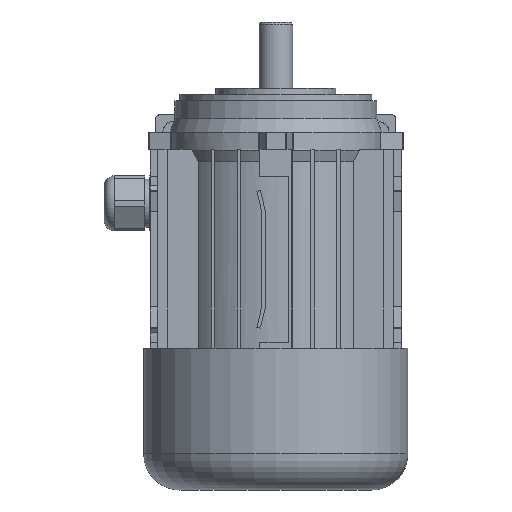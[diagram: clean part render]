
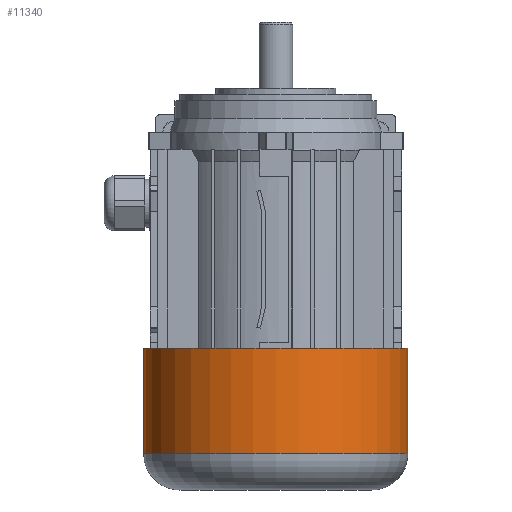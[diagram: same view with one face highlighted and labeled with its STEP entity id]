
A CAD part, front view. The second image highlights one B-rep face of the part: STEP entity #11340.
In plain terms, the highlighted cylindrical face has radius 55 mm (diameter 110 mm), a full revolution.
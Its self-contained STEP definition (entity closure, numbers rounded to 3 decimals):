
#2831=FACE_BOUND('',#4457,.T.);
#3198=CIRCLE('',#12322,55.);
#3203=CIRCLE('',#12331,55.);
#3768=FACE_OUTER_BOUND('',#4456,.T.);
#4456=EDGE_LOOP('',(#9783));
#4457=EDGE_LOOP('',(#9784));
#5586=VERTEX_POINT('',#19049);
#5591=VERTEX_POINT('',#19063);
#7084=EDGE_CURVE('',#5586,#5586,#3198,.T.);
#7089=EDGE_CURVE('',#5591,#5591,#3203,.T.);
#9783=ORIENTED_EDGE('',*,*,#7084,.F.);
#9784=ORIENTED_EDGE('',*,*,#7089,.F.);
#10828=CYLINDRICAL_SURFACE('',#12330,55.);
#11340=ADVANCED_FACE('',(#3768,#2831),#10828,.T.);
#12322=AXIS2_PLACEMENT_3D('',#19050,#15007,#15008);
#12330=AXIS2_PLACEMENT_3D('',#19062,#15023,#15024);
#12331=AXIS2_PLACEMENT_3D('',#19064,#15025,#15026);
#15007=DIRECTION('center_axis',(0.,0.,1.));
#15008=DIRECTION('ref_axis',(-1.,0.,0.));
#15023=DIRECTION('center_axis',(0.,0.,1.));
#15024=DIRECTION('ref_axis',(0.,1.,0.));
#15025=DIRECTION('center_axis',(0.,0.,-1.));
#15026=DIRECTION('ref_axis',(0.,-1.,0.));
#19049=CARTESIAN_POINT('',(0.,55.,-37.));
#19050=CARTESIAN_POINT('Origin',(0.,0.,-37.));
#19062=CARTESIAN_POINT('Origin',(0.,0.,-66.5));
#19063=CARTESIAN_POINT('',(0.,55.,-81.));
#19064=CARTESIAN_POINT('Origin',(0.,0.,-81.));
